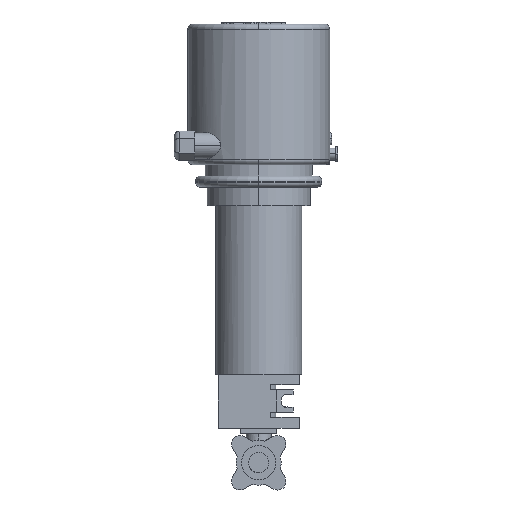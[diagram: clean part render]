
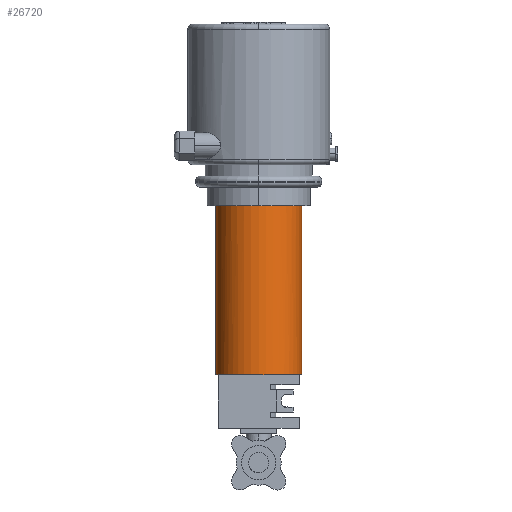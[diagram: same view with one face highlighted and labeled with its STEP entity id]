
A CAD part, left-side view. The second image highlights one B-rep face of the part: STEP entity #26720.
In plain terms, the highlighted cylindrical face has radius 42.5 mm (diameter 85 mm), a partial arc.
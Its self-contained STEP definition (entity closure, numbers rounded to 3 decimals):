
#14650=CARTESIAN_POINT('',(-27.861,-24.06,
6.422));
#14660=VERTEX_POINT('',#14650);
#15200=CARTESIAN_POINT('',(-13.5,4.225,34.707));
#15210=DIRECTION('',(0.,0.707,
-0.707));
#15220=DIRECTION('',(0.,-0.707,
-0.707));
#15230=AXIS2_PLACEMENT_3D('',#15200,#15210,#15220);
#15240=CIRCLE('',#15230,42.5);
#20380=CARTESIAN_POINT('',(-27.861,32.509,
62.991));
#20390=VERTEX_POINT('',#20380);
#20940=CARTESIAN_POINT('',(-53.5,14.38,
44.862));
#20950=VERTEX_POINT('',#20940);
#21020=CARTESIAN_POINT('',(-53.5,-5.93,
24.552));
#21030=VERTEX_POINT('',#21020);
#26110=EDGE_CURVE('',#20950,#20390,#15240,.T.);
#26250=EDGE_CURVE('',#14660,#21030,#15240,.T.);
#26300=CARTESIAN_POINT('',(-13.5,-54.819,
93.75));
#26310=DIRECTION('',(0.,0.707,
-0.707));
#26320=DIRECTION('',(0.,-0.707,
-0.707));
#26330=AXIS2_PLACEMENT_3D('',#26300,#26310,#26320);
#26340=CYLINDRICAL_SURFACE('',#26330,42.5);
#26350=ORIENTED_EDGE('',*,*,#26250,.F.);
#26360=EDGE_CURVE('',#21030,#20950,#15240,.T.);
#26370=ORIENTED_EDGE('',*,*,#26360,.F.);
#26380=ORIENTED_EDGE('',*,*,#26110,.F.);
#26390=CARTESIAN_POINT('',(-13.5,34.277,
64.759));
#26400=VERTEX_POINT('',#26390);
#26410=EDGE_CURVE('',#20390,#26400,#15240,.T.);
#26420=ORIENTED_EDGE('',*,*,#26410,.F.);
#26430=CARTESIAN_POINT('',(-13.5,-24.767,123.802));
#26440=DIRECTION('',(0.,0.707,
-0.707));
#26450=VECTOR('',#26440,1.);
#26460=LINE('',#26430,#26450);
#26470=CARTESIAN_POINT('',(-13.5,-83.81,
182.846));
#26480=VERTEX_POINT('',#26470);
#26490=EDGE_CURVE('',#26480,#26400,#26460,.T.);
#26500=ORIENTED_EDGE('',*,*,#26490,.T.);
#26510=CARTESIAN_POINT('',(-13.5,-113.862,
152.794));
#26520=DIRECTION('',(0.,-0.707,
0.707));
#26530=DIRECTION('',(0.,-0.707,
-0.707));
#26540=AXIS2_PLACEMENT_3D('',#26510,#26520,#26530);
#26550=CIRCLE('',#26540,42.5);
#26560=CARTESIAN_POINT('',(-13.5,-143.914,
122.741));
#26570=VERTEX_POINT('',#26560);
#26580=EDGE_CURVE('',#26480,#26570,#26550,.T.);
#26590=ORIENTED_EDGE('',*,*,#26580,.F.);
#26600=CARTESIAN_POINT('',(-13.5,-84.871,
63.698));
#26610=DIRECTION('',(0.,0.707,
-0.707));
#26620=VECTOR('',#26610,1.);
#26630=LINE('',#26600,#26620);
#26640=CARTESIAN_POINT('',(-13.5,-25.827,4.655));
#26650=VERTEX_POINT('',#26640);
#26660=EDGE_CURVE('',#26570,#26650,#26630,.T.);
#26670=ORIENTED_EDGE('',*,*,#26660,.F.);
#26680=EDGE_CURVE('',#26650,#14660,#15240,.T.);
#26690=ORIENTED_EDGE('',*,*,#26680,.F.);
#26700=EDGE_LOOP('',(#26690,#26670,#26590,#26500,#26420,#26380,#26370,
#26350));
#26710=FACE_OUTER_BOUND('',#26700,.T.);
#26720=ADVANCED_FACE('',(#26710),#26340,.T.);
